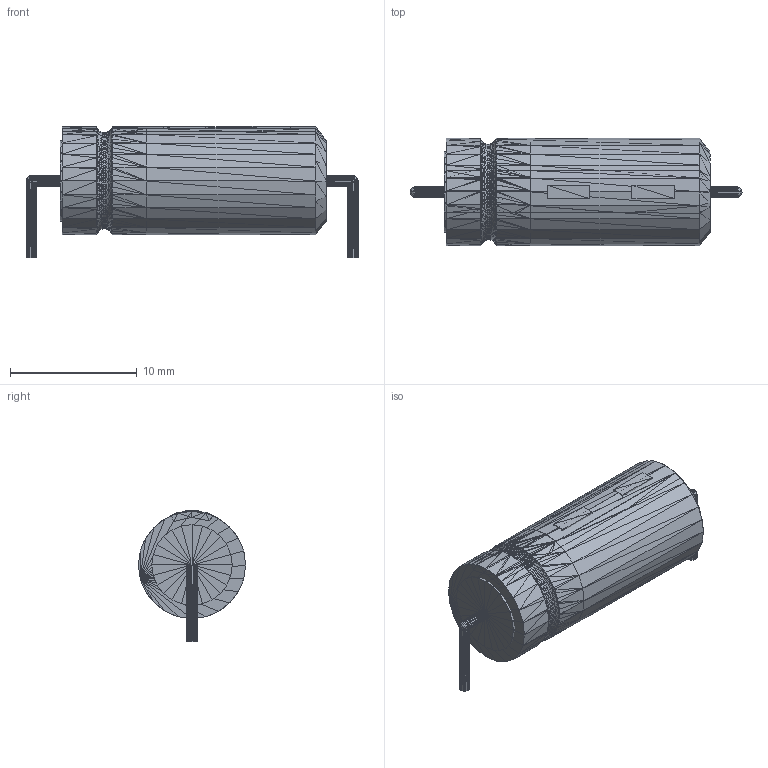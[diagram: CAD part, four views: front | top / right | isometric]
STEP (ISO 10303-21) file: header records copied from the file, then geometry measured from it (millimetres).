
FILE_DESCRIPTION(('HOOPS Exchange Step'),'2;1');
FILE_NAME('***.stp');
FILE_SCHEMA( ('AP242_MANAGED_MODEL_BASED_3D_ENGINEERING_MIM_LF {1 0 10303 442 1 1 4 }') );
Length unit declared in the file: inch
Products named in the file (16): AXPOLCAPSM_2; AXPOLCAPSM_3; AXPOLCAPSM_4; AXPOLCAPSM_5; AXPOLCAPSM_6; AXPOLCAPSM_7; AXPOLCAPSM_8; AXPOLCAPSM_9; AXPOLCAPSM_10; AXPOLCAPSM_11; AXPOLCAPSM_12; AXPOLCAPSM_13; AXPOLCAPSM_14; AXPOLCAPSM_15; AXPOLCAPSM_16; AXPOLCAPSM
Assembly tree (15 placements, depth 2):
  AXPOLCAPSM
    AXPOLCAPSM_2
    AXPOLCAPSM_3
    AXPOLCAPSM_4
    AXPOLCAPSM_5
    AXPOLCAPSM_6
    AXPOLCAPSM_7
    AXPOLCAPSM_8
    AXPOLCAPSM_9
    AXPOLCAPSM_10
    AXPOLCAPSM_11
    AXPOLCAPSM_12
    AXPOLCAPSM_13
    AXPOLCAPSM_14
    AXPOLCAPSM_15
    AXPOLCAPSM_16
Bounding box: 26.21 x 8.47 x 10.42 mm (x, y, z)
Volume: 1187.1 mm3; surface area: 1248 mm2
Topology: 14 solids, 16 shells, 3001 faces, 4512 edges, 1539 vertices
Faces by surface type: plane 3001
Entity records: 59336 total; most frequent: DIRECTION 10578, CARTESIAN_POINT 9084, ORIENTED_EDGE 9003, VECTOR 4512, LINE 4512, EDGE_CURVE 4512, AXIS2_PLACEMENT_3D 3033, PLANE 3001
